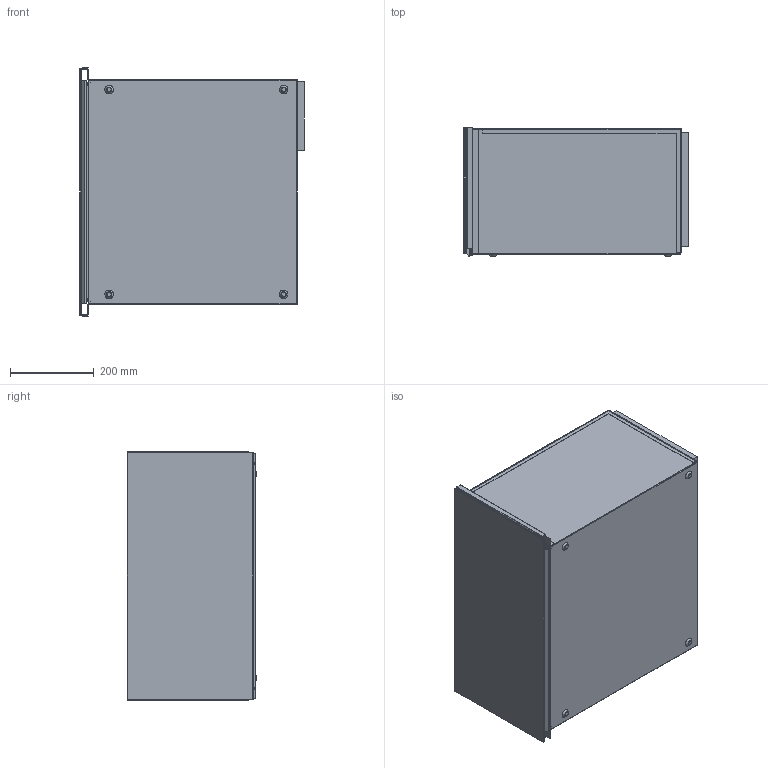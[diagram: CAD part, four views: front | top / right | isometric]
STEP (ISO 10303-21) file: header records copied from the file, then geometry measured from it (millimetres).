
FILE_DESCRIPTION(('CATIA V6 STEP','CAx-IF Rec.Pracs.--- Model Styling and Organization---1.2---2011-12-15'),'2;1');
FILE_NAME('P:\CATIA-UserDaten\3D Planungsdaten\WS-SS\WS_2015-04-16 aktualisiert fuer Albatros\X3401400022-A.stp','2015-04-16T06:42:41+00:00',('none'),('none'),'CATIA Unofficial Packaging Version','DASSAULT SYSTEMES CATIA V6 STEP AP214','none');
FILE_SCHEMA(('AUTOMOTIVE_DESIGN { 1 0 10303 214 1 1 1 1 }'));
Length unit declared in the file: millimetre
Products named in the file (1): 1005006-00
Bounding box: 537 x 310 x 596 mm (x, y, z)
Volume: 6610917.2 mm3; surface area: 4149583 mm2
Topology: 11 solids, 12 shells, 253 faces, 625 edges, 394 vertices
Faces by surface type: plane 144, cylinder 79, cone 16, torus 8, sphere 6
Entity records: 7326 total; most frequent: CARTESIAN_POINT 1488, ORIENTED_EDGE 1238, DIRECTION 1031, EDGE_CURVE 619, VECTOR 426, LINE 426, VERTEX_POINT 394, AXIS2_PLACEMENT_3D 382
